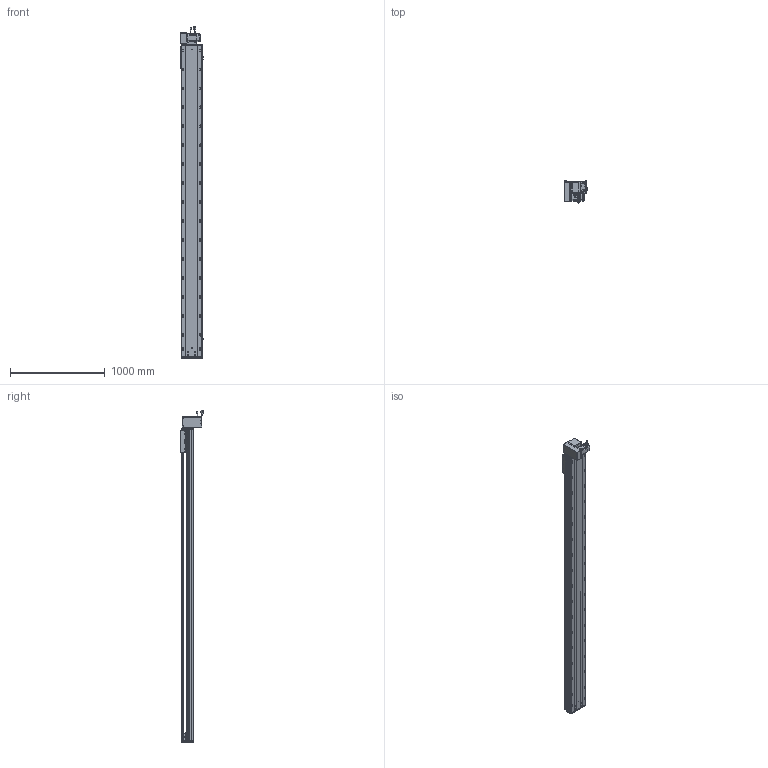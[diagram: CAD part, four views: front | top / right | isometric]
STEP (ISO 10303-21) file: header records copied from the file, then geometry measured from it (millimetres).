
FILE_DESCRIPTION (( 'STEP AP203' ), '1' );
FILE_NAME ('RY220-T-300-DL.SLDASM_2950.step', '2022-07-25T07:55:25', ( '' ), ( '' ), 'SwSTEP 2.0', 'SolidWorks 2016', '' );
FILE_SCHEMA (( 'CONFIG_CONTROL_DESIGN' ));
Length unit declared in the file: millimetre
Products named in the file (14): 滅袉蝶18-15; RY220-俋离672覜茼んえ; RY220-T-300-奻裔啣_2950; 怢湛750W_ECMA-CX0807ES; RY220翋肮祭謫釱; RY220-T菁釱-300_2950; RY220-T-300-DL.SLDASM_2950; 覜茼ん672; RY220-同步轮副支撑座6304×2; RY220-T-蛌殏萇儂假蚾啣(750W); RY220翋肮祭謫裔啣; RY220圉猾敕々湍臏賑輸; RY220-T-湍謫欶(鍼踢); 110A-T-肮祭謫釱傷裔
Assembly tree (18 placements, depth 2):
  RY220-T-300-DL.SLDASM_2950
    RY220-T菁釱-300_2950
    RY220翋肮祭謫釱
    覜茼ん672  x3
    RY220圉猾敕々湍臏賑輸
    RY220-T-300-奻裔啣_2950
    RY220-俋离672覜茼んえ
    滅袉蝶18-15  x3
    RY220翋肮祭謫裔啣  x2
    110A-T-肮祭謫釱傷裔
    怢湛750W_ECMA-CX0807ES
    RY220-T-湍謫欶(鍼踢)
    RY220-T-蛌殏萇儂假蚾啣(750W)
    RY220-同步轮副支撑座6304×2
Bounding box: 239.7 x 240.74 x 3503.27 mm (x, y, z)
Volume: 24880005.2 mm3; surface area: 7693573.9 mm2
Topology: 19 solids, 19 shells, 3020 faces, 8355 edges, 5230 vertices
Faces by surface type: cylinder 1492, plane 1069, cone 377, bspline 56, sphere 16, torus 10
Entity records: 100723 total; most frequent: CARTESIAN_POINT 28401, ORIENTED_EDGE 14938, DIRECTION 14436, EDGE_CURVE 7469, AXIS2_PLACEMENT_3D 5214, VERTEX_POINT 4854, LINE 4008, VECTOR 4008
